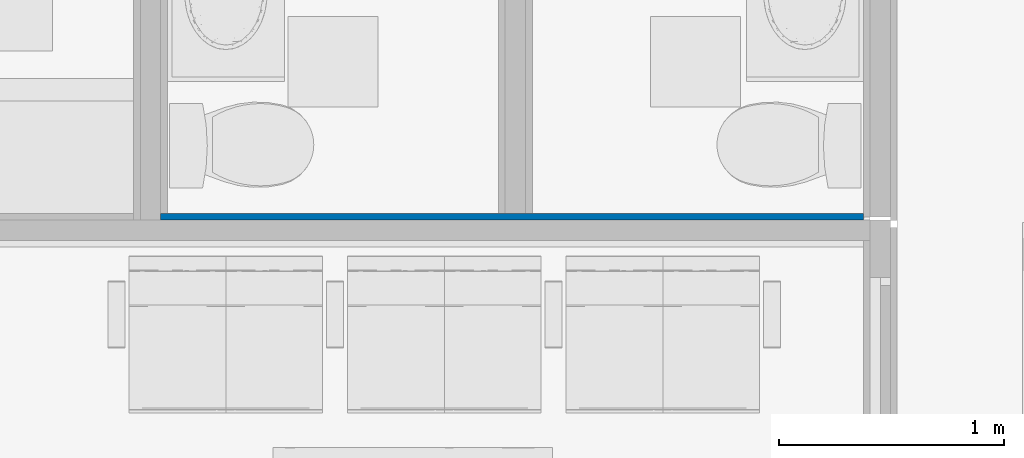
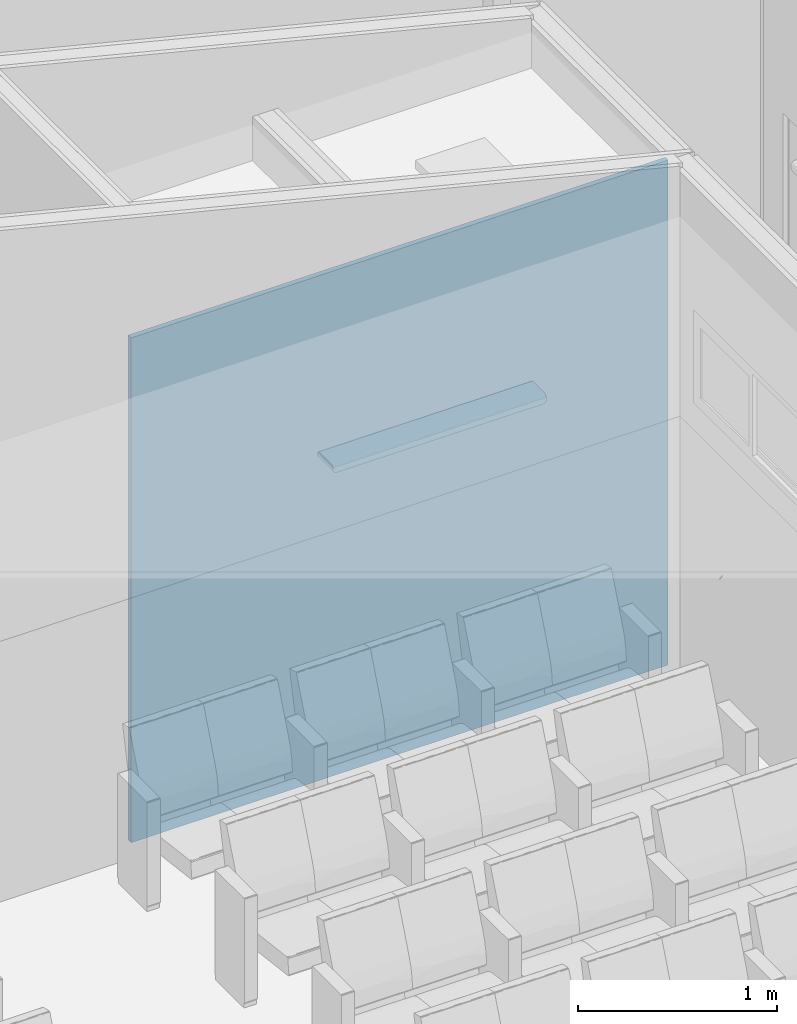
# One storey, part 31 of 155: 1 wall.
"""IFC2X3 building model written with IfcOpenShell, lengths in metres."""

import ifcopenshell
import ifcopenshell.guid

model = None  # the IFC model being written
_history = None  # IfcOwnerHistory: only IFC2X3 demands one
_inside = {}  # id of a spatial element -> (the spatial element, [elements in it])
_under = {}  # id of a project, library or spatial element -> (it, [spatial elements below it])
_declared = {}  # id of a project -> (the project, [libraries it declares])
_typed = {}  # id of a type object -> (the type object, [elements of that type])
_made_of = {}  # id of a material, layer set ... -> (it, [elements and type objects made of it])


def new_model(schema):
    """Start an empty IFC model of exactly this schema.

    Asked for "IFC4X3", IfcOpenShell would pick the latest addendum, in which some entities
    have other attributes; the version numbers below select the first issue.
    IFC2X3 requires an IfcOwnerHistory on every rooted entity: one is made here for all.
    """
    global model, _history
    if schema == "IFC4X3":
        model = ifcopenshell.file(schema_version=(4, 3, 0, 0))
    else:
        model = ifcopenshell.file(schema=schema)
    _inside.clear()
    _under.clear()
    _declared.clear()
    _typed.clear()
    _made_of.clear()
    _history = None
    if model.schema == "IFC2X3":
        org = make("IfcOrganization", Name="unknown")
        user = make(
            "IfcPersonAndOrganization",
            ThePerson=make("IfcPerson", FamilyName="unknown"),
            TheOrganization=org,
        )
        app = make(
            "IfcApplication",
            ApplicationDeveloper=org,
            Version="unknown",
            ApplicationFullName="unknown",
            ApplicationIdentifier="unknown",
        )
        _history = make(
            "IfcOwnerHistory",
            OwningUser=user,
            OwningApplication=app,
            ChangeAction="ADDED",
            CreationDate=0,
        )
    return model


def make(cls, **values):
    """One entity of the class cls with the attributes given. An attribute that is None is left unset."""
    return model.create_entity(
        cls, **{name: value for name, value in values.items() if value is not None}
    )


def entity(cls, *values):
    """Any entity or typed value of the class cls, its attributes in the order of the schema. None: left unset."""
    e = model.create_entity(cls)
    for i, value in enumerate(values):
        if value is not None:
            e[i] = value
    return e


def rooted(cls, **values):
    """An entity with a GlobalId (a new one), such as an element, a storey or a relation."""
    return make(cls, GlobalId=ifcopenshell.guid.new(), OwnerHistory=_history, **values)


def si_unit(unit_type, name, prefix=None):
    """IfcSIUnit, for example si_unit("LENGTHUNIT", "METRE", prefix="MILLI")."""
    return make("IfcSIUnit", UnitType=unit_type, Prefix=prefix, Name=name)


def converted_unit(unit_type, name, factor, base, dimensions=None, offset=None):
    """IfcConversionBasedUnit, such as the inch: factor (a typed value) times the base unit."""
    return make(
        "IfcConversionBasedUnit"
        if offset is None
        else "IfcConversionBasedUnitWithOffset",
        ConversionOffset=offset,
        Dimensions=None
        if dimensions is None
        else entity("IfcDimensionalExponents", *dimensions),
        UnitType=unit_type,
        Name=name,
        ConversionFactor=make(
            "IfcMeasureWithUnit", ValueComponent=factor, UnitComponent=base
        ),
    )


def derived_unit(unit_type, elements):
    """IfcDerivedUnit: a product of units, each with its exponent."""
    return make(
        "IfcDerivedUnit",
        Elements=[
            make("IfcDerivedUnitElement", Unit=unit, Exponent=power)
            for unit, power in elements
        ],
        UnitType=unit_type,
    )


def assignment(units):
    """IfcUnitAssignment: the units of a project."""
    return None if units is None else make("IfcUnitAssignment", Units=units)


def point(xyz):
    """IfcCartesianPoint."""
    return None if xyz is None else make("IfcCartesianPoint", Coordinates=xyz)


def direction(xyz):
    """IfcDirection."""
    return None if xyz is None else make("IfcDirection", DirectionRatios=xyz)


def frame(location, z_axis=None, x_axis=None):
    """IfcAxis2Placement3D, a coordinate frame: its origin and axes. An axis left out is left unset."""
    return make(
        "IfcAxis2Placement3D",
        Location=point(location),
        Axis=direction(z_axis),
        RefDirection=direction(x_axis),
    )


def frame_2d(location, x_axis=None):
    """IfcAxis2Placement2D, a coordinate frame in the plane: its origin and x axis."""
    return make(
        "IfcAxis2Placement2D", Location=point(location), RefDirection=direction(x_axis)
    )


def origin():
    """The frame at (0, 0, 0) with its axes left unset."""
    return frame((0.0, 0.0, 0.0))


def place(relative_to, where):
    """IfcLocalPlacement: puts the frame where relative to a parent placement (None: the world)."""
    return make(
        "IfcLocalPlacement", PlacementRelTo=relative_to, RelativePlacement=where
    )


def context(
    kind, dimensions, precision=None, world=None, true_north=None, identifier=None
):
    """IfcGeometricRepresentationContext, for example the 3D "Model" context."""
    return make(
        "IfcGeometricRepresentationContext",
        ContextIdentifier=identifier,
        ContextType=kind,
        CoordinateSpaceDimension=dimensions,
        Precision=precision,
        WorldCoordinateSystem=world,
        TrueNorth=true_north,
    )


def subcontext(parent, identifier, kind, view, scale=None):
    """IfcGeometricRepresentationSubContext, for example "Body" below "Model"."""
    return make(
        "IfcGeometricRepresentationSubContext",
        ContextIdentifier=identifier,
        ContextType=kind,
        ParentContext=parent,
        TargetScale=scale,
        TargetView=view,
    )


def project(units=None, contexts=None):
    """IfcProject with its units and contexts."""
    return rooted(
        "IfcProject",
        Name="project",
        RepresentationContexts=contexts,
        UnitsInContext=assignment(units),
    )


def spatial(cls, under=None, at=None, **own):
    """A site, building, storey or space (cls), placed at a placement, below another one or the project."""
    s = rooted(cls, ObjectPlacement=at, **own)
    if under is not None:
        _under.setdefault(under.id(), (under, []))[1].append(s)
    return s


def profile(cls, at=None, kind="AREA", **sizes):
    """A parametric profile (cls). Its sizes go by their IFC names, for example OverallWidth=200.0."""
    return make(cls, ProfileType=kind, Position=at, **sizes)


def rectangle(**sizes):
    """IfcRectangleProfileDef."""
    return profile("IfcRectangleProfileDef", **sizes)


def extrude(swept, where, along, depth):
    """IfcExtrudedAreaSolid: the profile swept, set in the frame where, extruded along a direction by depth."""
    return make(
        "IfcExtrudedAreaSolid",
        SweptArea=swept,
        Position=where,
        ExtrudedDirection=direction(along),
        Depth=depth,
    )


def shape(context_of_items, identifier, shape_type, items):
    """IfcShapeRepresentation: the items that make up one representation, for example the "Body"."""
    return make(
        "IfcShapeRepresentation",
        ContextOfItems=context_of_items,
        RepresentationIdentifier=identifier,
        RepresentationType=shape_type,
        Items=items,
    )


def material(Name=None, Category=None):
    """IfcMaterial."""
    return make("IfcMaterial", Name=Name, Category=Category)


def layer(
    of_material, thickness, ventilated=None, Name=None, Category=None, Priority=None
):
    """IfcMaterialLayer: one layer of a wall or slab, of a material (None: an air gap)."""
    return make(
        "IfcMaterialLayer",
        Material=of_material,
        LayerThickness=thickness,
        IsVentilated=ventilated,
        Name=Name,
        Category=Category,
        Priority=Priority,
    )


def layer_set(layers, Name=None):
    """IfcMaterialLayerSet."""
    return make("IfcMaterialLayerSet", MaterialLayers=layers, LayerSetName=Name)


def layer_usage(for_layer_set, set_direction, sense, offset, extent=None):
    """IfcMaterialLayerSetUsage: how a layer set lies in its element."""
    return make(
        "IfcMaterialLayerSetUsage",
        ForLayerSet=for_layer_set,
        LayerSetDirection=set_direction,
        DirectionSense=sense,
        OffsetFromReferenceLine=offset,
        ReferenceExtent=extent,
    )


def made_of(thing, what):
    """Note that an element or type object is made of a material, layer set ...; save() writes the relation."""
    if what is not None:
        _made_of.setdefault(what.id(), (what, []))[1].append(thing)
    return thing


def type_object(cls, material=None, **own):
    """A type object (cls), such as IfcWallType, which elements share."""
    return made_of(rooted(cls, **own), material)


def element(
    cls,
    number,
    at=None,
    inside=None,
    cuts=None,
    type_object=None,
    material=None,
    context=None,
    identifier="Body",
    shape_type=None,
    held_by="IfcProductDefinitionShape",
    body=None,
    shapes=None,
    **own,
):
    """One element of the class cls, such as IfcWall. Its Tag is "e" and its number.

    at: its placement. inside: the storey or other place that contains it. cuts: it is an
    opening in that element (IfcRelVoidsElement). A single representation is given by context,
    identifier, shape_type and body (its items); several are given by shapes. held_by: the class
    of the entity that holds the representations. save() writes the other relations.
    """
    e = rooted(cls, Tag="e%d" % number, ObjectPlacement=at, **own)
    if body is not None:
        shapes = [shape(context, identifier, shape_type, body)]
    if shapes is not None:
        e.Representation = make(held_by, Representations=shapes)
    if inside is not None:
        _inside.setdefault(inside.id(), (inside, []))[1].append(e)
    if cuts is not None:
        rooted(
            "IfcRelVoidsElement", RelatingBuildingElement=cuts, RelatedOpeningElement=e
        )
    if type_object is not None:
        _typed.setdefault(type_object.id(), (type_object, []))[1].append(e)
    return made_of(e, material)


def aggregate(whole, parts):
    """IfcRelAggregates: a whole, such as a stair, and the parts it consists of."""
    return rooted("IfcRelAggregates", RelatingObject=whole, RelatedObjects=parts)


def save(model, path):
    """Write the relations noted so far, then the file.

    IfcRelAggregates (storeys below a building ...), IfcRelContainedInSpatialStructure (elements
    in a storey), IfcRelDefinesByType, IfcRelAssociatesMaterial and IfcRelDeclares: one each for
    every whole, place, type object, material and project.
    """
    for whole, parts in _under.values():
        aggregate(whole, parts)
    for where, things in _inside.values():
        rooted(
            "IfcRelContainedInSpatialStructure",
            RelatedElements=things,
            RelatingStructure=where,
        )
    for kind, things in _typed.values():
        rooted("IfcRelDefinesByType", RelatedObjects=things, RelatingType=kind)
    for what, things in _made_of.values():
        rooted("IfcRelAssociatesMaterial", RelatedObjects=things, RelatingMaterial=what)
    for by, libraries in _declared.values():
        rooted("IfcRelDeclares", RelatingContext=by, RelatedDefinitions=libraries)
    model.write(path)


model = new_model("IFC2X3")

# Units and contexts
model_context = context("Model", 3, precision=1e-05, world=origin(), true_north=direction((6.12303176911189e-17, 1.0)))
body_context = subcontext(model_context, "Body", "Model", "MODEL_VIEW")
ifc_project = project(units=[si_unit("LENGTHUNIT", "METRE"), si_unit("AREAUNIT", "SQUARE_METRE"), si_unit("VOLUMEUNIT", "CUBIC_METRE"), converted_unit("PLANEANGLEUNIT", "DEGREE", entity("IfcRatioMeasure", 0.0174532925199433), si_unit("PLANEANGLEUNIT", "RADIAN"), dimensions=[0, 0, 0, 0, 0, 0, 0]), si_unit("MASSUNIT", "GRAM", prefix="KILO"), derived_unit("MASSDENSITYUNIT", [(si_unit("MASSUNIT", "GRAM", prefix="KILO"), 1), (si_unit("LENGTHUNIT", "METRE"), -3)]), si_unit("TIMEUNIT", "SECOND"), si_unit("FREQUENCYUNIT", "HERTZ"), si_unit("THERMODYNAMICTEMPERATUREUNIT", "DEGREE_CELSIUS"), derived_unit("THERMALTRANSMITTANCEUNIT", [(si_unit("MASSUNIT", "GRAM", prefix="KILO"), 1), (si_unit("THERMODYNAMICTEMPERATUREUNIT", "KELVIN"), -1), (si_unit("TIMEUNIT", "SECOND"), -3)]), derived_unit("VOLUMETRICFLOWRATEUNIT", [(si_unit("LENGTHUNIT", "METRE"), 3), (si_unit("TIMEUNIT", "SECOND"), -1)]), si_unit("ELECTRICCURRENTUNIT", "AMPERE"), si_unit("ELECTRICVOLTAGEUNIT", "VOLT"), si_unit("POWERUNIT", "WATT"), si_unit("FORCEUNIT", "NEWTON", prefix="KILO"), si_unit("ILLUMINANCEUNIT", "LUX"), si_unit("LUMINOUSFLUXUNIT", "LUMEN"), si_unit("LUMINOUSINTENSITYUNIT", "CANDELA"), derived_unit("USERDEFINED", [(si_unit("MASSUNIT", "GRAM", prefix="KILO"), -1), (si_unit("LENGTHUNIT", "METRE"), -2), (si_unit("TIMEUNIT", "SECOND"), 3), (si_unit("LUMINOUSFLUXUNIT", "LUMEN"), 1)]), derived_unit("LINEARVELOCITYUNIT", [(si_unit("LENGTHUNIT", "METRE"), 1), (si_unit("TIMEUNIT", "SECOND"), -1)]), si_unit("PRESSUREUNIT", "PASCAL"), derived_unit("USERDEFINED", [(si_unit("LENGTHUNIT", "METRE"), -2), (si_unit("MASSUNIT", "GRAM", prefix="KILO"), 1), (si_unit("TIMEUNIT", "SECOND"), -2)])], contexts=[model_context])

# Site, building, storey
site_placement = place(None, frame((26.9889013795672, -17.5624287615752, 0.0)))
site = spatial("IfcSite", under=ifc_project, at=site_placement, Name="Default", CompositionType="ELEMENT")
building_placement = place(site_placement, origin())
building = spatial("IfcBuilding", under=site, at=building_placement, Name="C. C. L. Monsenhor Antônio Sampaio", CompositionType="ELEMENT")
storey_placement = place(building_placement, frame((0.0, 0.0, 1.19999999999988)))
storey = spatial("IfcBuildingStorey", under=building, at=storey_placement, Name="Nível 1.2", CompositionType="ELEMENT", Elevation=1.19999999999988)

# Wall
ifc_material_1 = material(Name=".CERÂMICA 10x10 BRANCA")
ifc_layer_1 = layer(ifc_material_1, 0.0035)
ifc_material_2 = material(Name="Argamassa Colante")
ifc_layer_2 = layer(ifc_material_2, 0.02)
ifc_material_3 = material(Name="4")
ifc_layer_3 = layer(ifc_material_3, 0.0015)
ifc_material_4 = material(Name="3")
ifc_layer_4 = layer(ifc_material_4, 0.005)
ifc_layer_set = layer_set([ifc_layer_1, ifc_layer_2, ifc_layer_3, ifc_layer_4], Name="Parede básica:ECeramica branca 10x10cm")
ifc_layer_usage = layer_usage(ifc_layer_set, "AXIS2", "POSITIVE", -0.015)
wall_type = type_object("IfcWallType", Name="Parede básica:ECeramica branca 10x10cm", PredefinedType="STANDARD", material=ifc_layer_set)
wall_placement = place(storey_placement, frame((-5.99055229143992, -9.96806634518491, 0.0), z_axis=(0.0, 0.0, 1.0), x_axis=(-1.0, 0.0, 0.0)))
element("IfcWallStandardCase", 1, at=wall_placement, inside=storey, type_object=wall_type, material=ifc_layer_usage, Name="Parede básica:ECeramica branca 10x10cm", ObjectType="Parede básica:ECeramica branca 10x10cm", context=body_context, shape_type="SweptSolid", body=[
    extrude(rectangle(XDim=3.12, YDim=0.0300000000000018, at=frame_2d((1.56, -4.562322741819e-16), x_axis=(-1.0, 0.0))), origin(), (0.0, 0.0, 1.0), 3.10000000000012),
])

save(model, "model.ifc")
